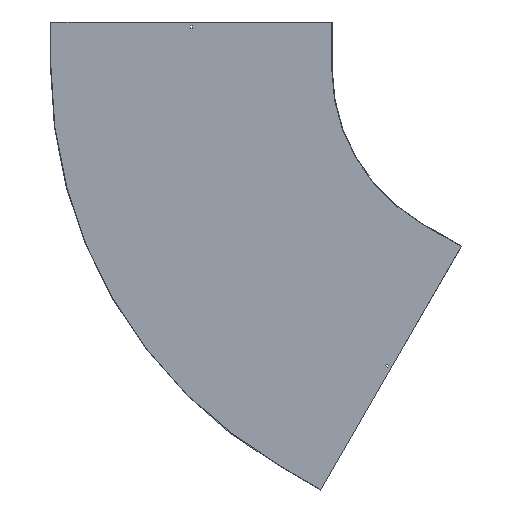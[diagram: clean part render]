
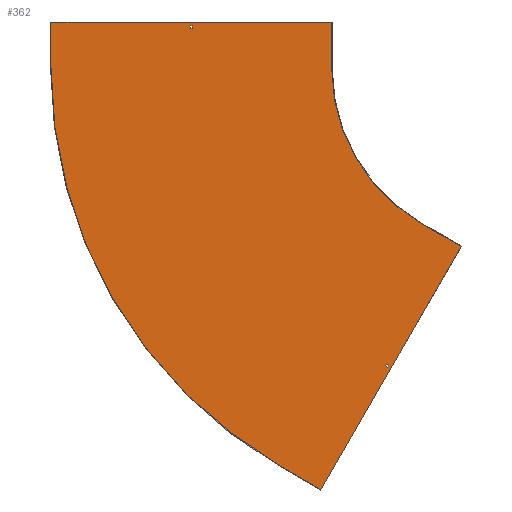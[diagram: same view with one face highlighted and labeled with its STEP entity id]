
A CAD part, front view. The second image highlights one B-rep face of the part: STEP entity #362.
In plain terms, the highlighted planar face has unit normal (0, -1, 0).
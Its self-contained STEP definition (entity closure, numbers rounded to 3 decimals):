
#2 = LINE ( 'NONE', #720, #484 ) ;
#5 = ORIENTED_EDGE ( 'NONE', *, *, #701, .F. ) ;
#14 = FACE_BOUND ( 'NONE', #717, .T. ) ;
#20 = EDGE_CURVE ( 'NONE', #412, #154, #118, .T. ) ;
#21 = EDGE_CURVE ( 'NONE', #335, #71, #497, .T. ) ;
#28 = LINE ( 'NONE', #819, #349 ) ;
#30 = ORIENTED_EDGE ( 'NONE', *, *, #193, .F. ) ;
#60 = VERTEX_POINT ( 'NONE', #214 ) ;
#71 = VERTEX_POINT ( 'NONE', #803 ) ;
#73 = CARTESIAN_POINT ( 'NONE',  ( -414.908, -1.5, -976.641 ) ) ;
#75 = ORIENTED_EDGE ( 'NONE', *, *, #397, .F. ) ;
#80 = ORIENTED_EDGE ( 'NONE', *, *, #702, .F. ) ;
#82 = ORIENTED_EDGE ( 'NONE', *, *, #813, .T. ) ;
#83 = CARTESIAN_POINT ( 'NONE',  ( -403.863, -1.5, -975.512 ) ) ;
#97 = CARTESIAN_POINT ( 'NONE',  ( -165.096, -1.5, -585.955 ) ) ;
#109 = EDGE_LOOP ( 'NONE', ( #82, #150, #264, #168 ) ) ;
#110 = DIRECTION ( 'NONE',  ( 1., 0., 0. ) ) ;
#111 = EDGE_CURVE ( 'NONE', #475, #542, #791, .T. ) ;
#118 = CIRCLE ( 'NONE', #797, 1510. ) ;
#119 = AXIS2_PLACEMENT_3D ( 'NONE', #278, #135, #407 ) ;
#120 = CARTESIAN_POINT ( 'NONE',  ( -1511.5, -1.5, 150. ) ) ;
#126 = DIRECTION ( 'NONE',  ( 0.866, 0., -0.5 ) ) ;
#135 = DIRECTION ( 'NONE',  ( 0., -1., 0. ) ) ;
#148 = EDGE_CURVE ( 'NONE', #227, #335, #590, .T. ) ;
#150 = ORIENTED_EDGE ( 'NONE', *, *, #148, .T. ) ;
#154 = VERTEX_POINT ( 'NONE', #617 ) ;
#164 = DIRECTION ( 'NONE',  ( -0.866, 0., 0.5 ) ) ;
#168 = ORIENTED_EDGE ( 'NONE', *, *, #757, .T. ) ;
#169 = LINE ( 'NONE', #437, #841 ) ;
#174 = ORIENTED_EDGE ( 'NONE', *, *, #518, .F. ) ;
#189 = LINE ( 'NONE', #637, #854 ) ;
#192 = CARTESIAN_POINT ( 'NONE',  ( -590., -1.5, 0. ) ) ;
#193 = EDGE_CURVE ( 'NONE', #380, #281, #628, .T. ) ;
#197 = VECTOR ( 'NONE', #476, 1000. ) ;
#205 = CARTESIAN_POINT ( 'NONE',  ( -164.346, -1.5, -584.656 ) ) ;
#207 = AXIS2_PLACEMENT_3D ( 'NONE', #593, #583, #450 ) ;
#214 = CARTESIAN_POINT ( 'NONE',  ( -411.658, -1.5, -971.012 ) ) ;
#223 = VECTOR ( 'NONE', #470, 1000. ) ;
#226 = DIRECTION ( 'NONE',  ( -0.866, 0., 0.5 ) ) ;
#227 = VERTEX_POINT ( 'NONE', #647 ) ;
#231 = CARTESIAN_POINT ( 'NONE',  ( -590., -1.5, 150. ) ) ;
#233 = LINE ( 'NONE', #751, #415 ) ;
#239 = EDGE_CURVE ( 'NONE', #246, #680, #189, .T. ) ;
#242 = DIRECTION ( 'NONE',  ( 0., 0., 1. ) ) ;
#244 = CARTESIAN_POINT ( 'NONE',  ( -295., -1.5, -510.955 ) ) ;
#246 = VERTEX_POINT ( 'NONE', #323 ) ;
#256 = VERTEX_POINT ( 'NONE', #436 ) ;
#263 = DIRECTION ( 'NONE',  ( 0., 0., -1. ) ) ;
#264 = ORIENTED_EDGE ( 'NONE', *, *, #21, .T. ) ;
#266 = DIRECTION ( 'NONE',  ( 0., 0., 1. ) ) ;
#278 = CARTESIAN_POINT ( 'NONE',  ( 0., -1.5, 0. ) ) ;
#281 = VERTEX_POINT ( 'NONE', #192 ) ;
#302 = DIRECTION ( 'NONE',  ( 0.866, 0., -0.5 ) ) ;
#303 = VERTEX_POINT ( 'NONE', #244 ) ;
#305 = EDGE_CURVE ( 'NONE', #764, #380, #763, .T. ) ;
#312 = LINE ( 'NONE', #351, #723 ) ;
#315 = CARTESIAN_POINT ( 'NONE',  ( -1046.75, -1.5, 129. ) ) ;
#320 = CARTESIAN_POINT ( 'NONE',  ( -625.096, -1.5, -1382.698 ) ) ;
#321 = DIRECTION ( 'NONE',  ( 1., 0., 0. ) ) ;
#323 = CARTESIAN_POINT ( 'NONE',  ( -407.113, -1.5, -981.141 ) ) ;
#335 = VERTEX_POINT ( 'NONE', #315 ) ;
#349 = VECTOR ( 'NONE', #164, 1000. ) ;
#351 = CARTESIAN_POINT ( 'NONE',  ( -526.625, -1.5, -912.141 ) ) ;
#362 = ADVANCED_FACE ( 'NONE', ( #14, #666, #805 ), #779, .T. ) ;
#365 = LINE ( 'NONE', #625, #713 ) ;
#367 = DIRECTION ( 'NONE',  ( 0., 0., -1. ) ) ;
#368 = VERTEX_POINT ( 'NONE', #73 ) ;
#373 = DIRECTION ( 'NONE',  ( 0.5, 0., 0.866 ) ) ;
#380 = VERTEX_POINT ( 'NONE', #231 ) ;
#390 = VECTOR ( 'NONE', #110, 1000. ) ;
#397 = EDGE_CURVE ( 'NONE', #303, #475, #365, .T. ) ;
#404 = LINE ( 'NONE', #769, #223 ) ;
#405 = ORIENTED_EDGE ( 'NONE', *, *, #305, .F. ) ;
#407 = DIRECTION ( 'NONE',  ( 0., 0., -1. ) ) ;
#412 = VERTEX_POINT ( 'NONE', #765 ) ;
#415 = VECTOR ( 'NONE', #226, 1000. ) ;
#429 = VECTOR ( 'NONE', #832, 1000. ) ;
#430 = CARTESIAN_POINT ( 'NONE',  ( -590., -1.5, 150. ) ) ;
#433 = EDGE_CURVE ( 'NONE', #542, #412, #28, .T. ) ;
#436 = CARTESIAN_POINT ( 'NONE',  ( -1053.25, -1.5, 138. ) ) ;
#437 = CARTESIAN_POINT ( 'NONE',  ( -1510., -1.5, 0. ) ) ;
#438 = ORIENTED_EDGE ( 'NONE', *, *, #464, .F. ) ;
#450 = DIRECTION ( 'NONE',  ( 0., 0., -1. ) ) ;
#456 = VECTOR ( 'NONE', #321, 1000. ) ;
#464 = EDGE_CURVE ( 'NONE', #680, #60, #233, .T. ) ;
#470 = DIRECTION ( 'NONE',  ( -0.5, 0., -0.866 ) ) ;
#475 = VERTEX_POINT ( 'NONE', #97 ) ;
#476 = DIRECTION ( 'NONE',  ( -0.5, 0., -0.866 ) ) ;
#484 = VECTOR ( 'NONE', #266, 1000. ) ;
#497 = LINE ( 'NONE', #506, #429 ) ;
#501 = ORIENTED_EDGE ( 'NONE', *, *, #239, .F. ) ;
#506 = CARTESIAN_POINT ( 'NONE',  ( 0., -1.5, 129. ) ) ;
#518 = EDGE_CURVE ( 'NONE', #154, #764, #169, .T. ) ;
#525 = ORIENTED_EDGE ( 'NONE', *, *, #20, .F. ) ;
#542 = VERTEX_POINT ( 'NONE', #320 ) ;
#558 = DIRECTION ( 'NONE',  ( 0., 0., -1. ) ) ;
#563 = VECTOR ( 'NONE', #263, 1000. ) ;
#583 = DIRECTION ( 'NONE',  ( 0., -1., 0. ) ) ;
#590 = LINE ( 'NONE', #855, #563 ) ;
#592 = VECTOR ( 'NONE', #367, 1000. ) ;
#593 = CARTESIAN_POINT ( 'NONE',  ( 0., -1.5, 0. ) ) ;
#617 = CARTESIAN_POINT ( 'NONE',  ( -1510., -1.5, 0. ) ) ;
#625 = CARTESIAN_POINT ( 'NONE',  ( -295., -1.5, -510.955 ) ) ;
#626 = ORIENTED_EDGE ( 'NONE', *, *, #111, .F. ) ;
#628 = LINE ( 'NONE', #430, #592 ) ;
#637 = CARTESIAN_POINT ( 'NONE',  ( 119.512, -1.5, -69. ) ) ;
#644 = CARTESIAN_POINT ( 'NONE',  ( 0., -1.5, 138. ) ) ;
#647 = CARTESIAN_POINT ( 'NONE',  ( -1046.75, -1.5, 138. ) ) ;
#651 = CARTESIAN_POINT ( 'NONE',  ( -1510., -1.5, 150. ) ) ;
#666 = FACE_OUTER_BOUND ( 'NONE', #741, .T. ) ;
#680 = VERTEX_POINT ( 'NONE', #83 ) ;
#685 = CIRCLE ( 'NONE', #207, 590. ) ;
#695 = DIRECTION ( 'NONE',  ( 0., 1., 0. ) ) ;
#701 = EDGE_CURVE ( 'NONE', #368, #246, #312, .T. ) ;
#702 = EDGE_CURVE ( 'NONE', #281, #303, #685, .T. ) ;
#713 = VECTOR ( 'NONE', #302, 1000. ) ;
#717 = EDGE_LOOP ( 'NONE', ( #438, #501, #5, #852 ) ) ;
#720 = CARTESIAN_POINT ( 'NONE',  ( -1053.25, -1.5, 0. ) ) ;
#723 = VECTOR ( 'NONE', #126, 1000. ) ;
#741 = EDGE_LOOP ( 'NONE', ( #405, #174, #525, #759, #626, #75, #80, #30 ) ) ;
#751 = CARTESIAN_POINT ( 'NONE',  ( -523.375, -1.5, -906.512 ) ) ;
#757 = EDGE_CURVE ( 'NONE', #71, #256, #2, .T. ) ;
#758 = EDGE_CURVE ( 'NONE', #60, #368, #404, .T. ) ;
#759 = ORIENTED_EDGE ( 'NONE', *, *, #433, .F. ) ;
#763 = LINE ( 'NONE', #120, #390 ) ;
#764 = VERTEX_POINT ( 'NONE', #651 ) ;
#765 = CARTESIAN_POINT ( 'NONE',  ( -755., -1.5, -1307.698 ) ) ;
#769 = CARTESIAN_POINT ( 'NONE',  ( 111.717, -1.5, -64.5 ) ) ;
#774 = LINE ( 'NONE', #644, #456 ) ;
#779 = PLANE ( 'NONE',  #119 ) ;
#791 = LINE ( 'NONE', #205, #197 ) ;
#797 = AXIS2_PLACEMENT_3D ( 'NONE', #824, #695, #558 ) ;
#803 = CARTESIAN_POINT ( 'NONE',  ( -1053.25, -1.5, 129. ) ) ;
#805 = FACE_BOUND ( 'NONE', #109, .T. ) ;
#813 = EDGE_CURVE ( 'NONE', #256, #227, #774, .T. ) ;
#819 = CARTESIAN_POINT ( 'NONE',  ( -625.096, -1.5, -1382.698 ) ) ;
#824 = CARTESIAN_POINT ( 'NONE',  ( 0., -1.5, 0. ) ) ;
#832 = DIRECTION ( 'NONE',  ( -1., 0., 0. ) ) ;
#841 = VECTOR ( 'NONE', #242, 1000. ) ;
#852 = ORIENTED_EDGE ( 'NONE', *, *, #758, .F. ) ;
#854 = VECTOR ( 'NONE', #373, 1000. ) ;
#855 = CARTESIAN_POINT ( 'NONE',  ( -1046.75, -1.5, 0. ) ) ;
